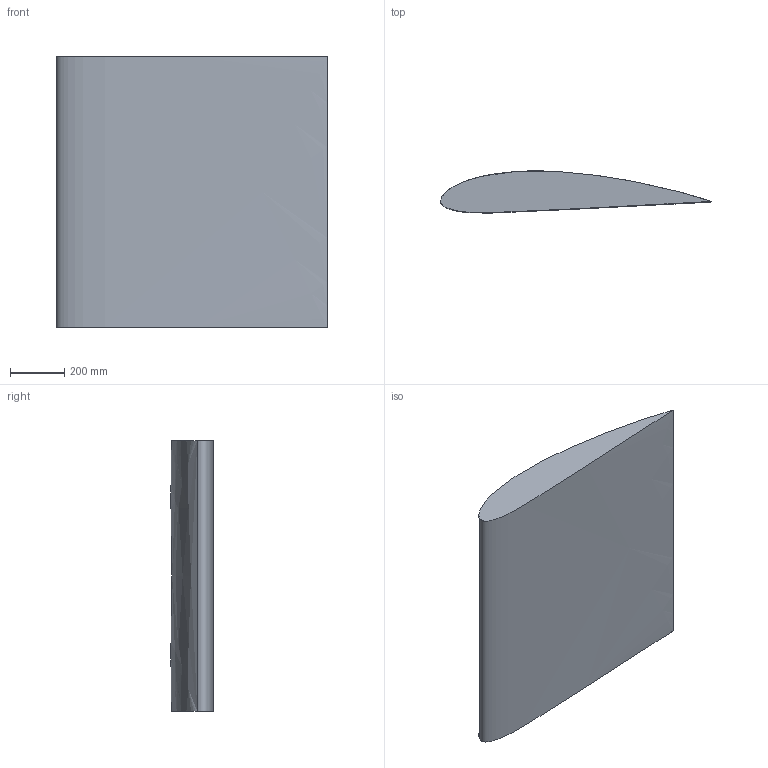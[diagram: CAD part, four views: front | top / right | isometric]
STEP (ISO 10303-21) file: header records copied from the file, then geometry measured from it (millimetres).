
FILE_DESCRIPTION (( 'STEP AP203' ), '1' );
FILE_NAME ('0 degree.STEP', '2018-12-17T17:04:56', ( '' ), ( '' ), 'SwSTEP 2.0', 'SolidWorks 2017', '' );
FILE_SCHEMA (( 'CONFIG_CONTROL_DESIGN' ));
Length unit declared in the file: millimetre
Products named in the file (1): 0 degree
Bounding box: 999.99 x 155.37 x 1000 mm (x, y, z)
Volume: 104291055.8 mm3; surface area: 2270066 mm2
Topology: 1 solids, 1 shells, 4 faces, 6 edges, 4 vertices
Faces by surface type: bspline 2, plane 2
Entity records: 559 total; most frequent: CARTESIAN_POINT 421, ORIENTED_EDGE 12, PERSON_AND_ORGANIZATION 8, DIRECTION 8, EDGE_CURVE 6, CC_DESIGN_PERSON_AND_ORGANIZATION_ASSIGNMENT 5, CALENDAR_DATE 5, LOCAL_TIME 5
